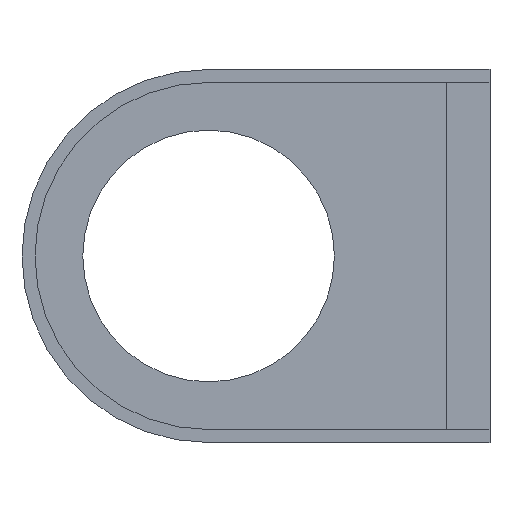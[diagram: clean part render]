
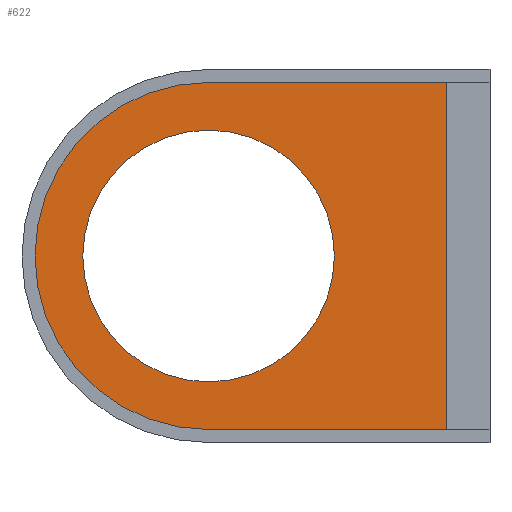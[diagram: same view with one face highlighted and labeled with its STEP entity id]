
A CAD part, front view. The second image highlights one B-rep face of the part: STEP entity #622.
In plain terms, the highlighted planar face has unit normal (0, -1, 0).
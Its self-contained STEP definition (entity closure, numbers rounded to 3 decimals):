
#32=FACE_BOUND('',#159,.T.);
#54=CIRCLE('',#677,14.5);
#58=CIRCLE('',#684,20.);
#107=FACE_OUTER_BOUND('',#158,.T.);
#158=EDGE_LOOP('',(#561,#562,#563,#564));
#159=EDGE_LOOP('',(#565));
#173=LINE('',#903,#227);
#210=LINE('',#1021,#264);
#212=LINE('',#1024,#266);
#227=VECTOR('',#718,27.425);
#264=VECTOR('',#837,27.425);
#266=VECTOR('',#841,40.);
#280=VERTEX_POINT('',#900);
#281=VERTEX_POINT('',#902);
#320=VERTEX_POINT('',#1018);
#321=VERTEX_POINT('',#1020);
#322=VERTEX_POINT('',#1028);
#342=EDGE_CURVE('',#280,#281,#173,.T.);
#397=EDGE_CURVE('',#320,#321,#210,.T.);
#399=EDGE_CURVE('',#320,#281,#212,.T.);
#401=EDGE_CURVE('',#322,#322,#54,.T.);
#405=EDGE_CURVE('',#321,#280,#58,.T.);
#561=ORIENTED_EDGE('',*,*,#399,.T.);
#562=ORIENTED_EDGE('',*,*,#342,.F.);
#563=ORIENTED_EDGE('',*,*,#405,.F.);
#564=ORIENTED_EDGE('',*,*,#397,.F.);
#565=ORIENTED_EDGE('',*,*,#401,.T.);
#586=PLANE('',#686);
#622=ADVANCED_FACE('',(#107,#32),#586,.F.);
#677=AXIS2_PLACEMENT_3D('',#1029,#847,#848);
#684=AXIS2_PLACEMENT_3D('',#1039,#861,#862);
#686=AXIS2_PLACEMENT_3D('',#1041,#865,#866);
#718=DIRECTION('',(1.,0.,0.));
#837=DIRECTION('',(-1.,0.,0.));
#841=DIRECTION('',(0.,0.,1.));
#847=DIRECTION('center_axis',(0.,1.,0.));
#848=DIRECTION('ref_axis',(-1.,0.,0.));
#861=DIRECTION('center_axis',(0.,1.,0.));
#862=DIRECTION('ref_axis',(0.,0.,-1.));
#865=DIRECTION('center_axis',(0.,1.,0.));
#866=DIRECTION('ref_axis',(0.,0.,1.));
#900=CARTESIAN_POINT('',(-16.213,0.,20.));
#902=CARTESIAN_POINT('',(11.213,0.,20.));
#903=CARTESIAN_POINT('',(-16.213,0.,20.));
#1018=CARTESIAN_POINT('',(11.213,0.,-20.));
#1020=CARTESIAN_POINT('',(-16.213,0.,-20.));
#1021=CARTESIAN_POINT('',(16.213,0.,-20.));
#1024=CARTESIAN_POINT('',(11.213,0.,10.));
#1028=CARTESIAN_POINT('',(-1.712,0.,0.));
#1029=CARTESIAN_POINT('Origin',(-16.213,0.,0.));
#1039=CARTESIAN_POINT('Origin',(-16.213,0.,0.));
#1041=CARTESIAN_POINT('Origin',(-23.099,0.,0.));
